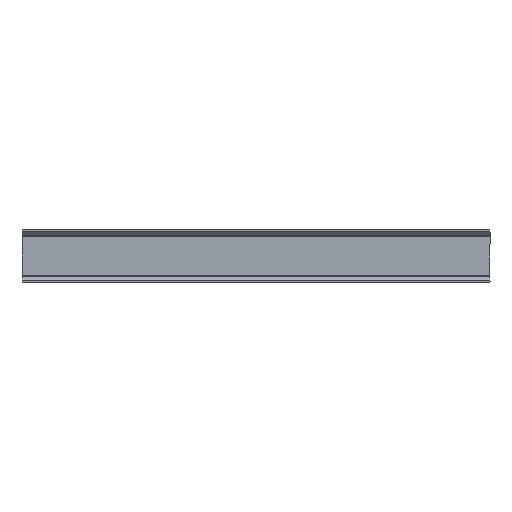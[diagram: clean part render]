
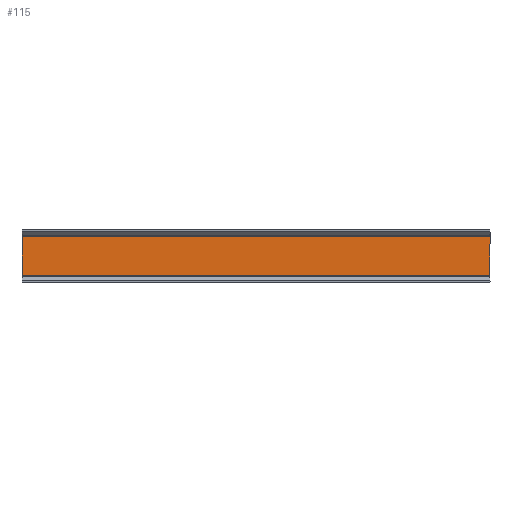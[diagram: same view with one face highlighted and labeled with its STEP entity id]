
A CAD part, front view. The second image highlights one B-rep face of the part: STEP entity #115.
In plain terms, the highlighted planar face has unit normal (0, -1, 0).
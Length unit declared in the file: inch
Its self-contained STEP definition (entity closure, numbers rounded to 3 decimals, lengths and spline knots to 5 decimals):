
#115 = ADVANCED_FACE ( 'NONE', ( #728 ), #1585, .T. ) ;
#185 = CARTESIAN_POINT ( 'NONE',  ( 12., -0.036, -1.211 ) ) ;
#198 = CARTESIAN_POINT ( 'NONE',  ( 12., -0.036, 0. ) ) ;
#204 = DIRECTION ( 'NONE',  ( 0., 0., -1. ) ) ;
#212 = DIRECTION ( 'NONE',  ( -1., 0., 0. ) ) ;
#251 = CARTESIAN_POINT ( 'NONE',  ( 0., -0.036, -0.029 ) ) ;
#252 = DIRECTION ( 'NONE',  ( 1., 0., 0. ) ) ;
#652 = EDGE_LOOP ( 'NONE', ( #764, #778, #769, #774 ) ) ;
#653 = VERTEX_POINT ( 'NONE', #1739 ) ;
#668 = VERTEX_POINT ( 'NONE', #1779 ) ;
#680 = VERTEX_POINT ( 'NONE', #1746 ) ;
#683 = VERTEX_POINT ( 'NONE', #1785 ) ;
#728 = FACE_OUTER_BOUND ( 'NONE', #652, .T. ) ;
#764 = ORIENTED_EDGE ( 'NONE', *, *, #1554, .F. ) ;
#769 = ORIENTED_EDGE ( 'NONE', *, *, #1507, .F. ) ;
#774 = ORIENTED_EDGE ( 'NONE', *, *, #1519, .F. ) ;
#778 = ORIENTED_EDGE ( 'NONE', *, *, #1513, .F. ) ;
#974 = CARTESIAN_POINT ( 'NONE',  ( 0., -0.036, 0. ) ) ;
#988 = DIRECTION ( 'NONE',  ( 0., 0., 1. ) ) ;
#1059 = LINE ( 'NONE', #198, #1096 ) ;
#1065 = VECTOR ( 'NONE', #212, 39.37008 ) ;
#1074 = LINE ( 'NONE', #185, #1065 ) ;
#1078 = LINE ( 'NONE', #251, #1081 ) ;
#1081 = VECTOR ( 'NONE', #252, 39.37008 ) ;
#1096 = VECTOR ( 'NONE', #204, 39.37008 ) ;
#1126 = LINE ( 'NONE', #974, #1200 ) ;
#1200 = VECTOR ( 'NONE', #988, 39.37008 ) ;
#1419 = AXIS2_PLACEMENT_3D ( 'NONE', #1587, #1588, #1561 ) ;
#1507 = EDGE_CURVE ( 'NONE', #668, #683, #1059, .T. ) ;
#1513 = EDGE_CURVE ( 'NONE', #683, #680, #1074, .T. ) ;
#1519 = EDGE_CURVE ( 'NONE', #653, #668, #1078, .T. ) ;
#1554 = EDGE_CURVE ( 'NONE', #680, #653, #1126, .T. ) ;
#1561 = DIRECTION ( 'NONE',  ( 0., 0., -1. ) ) ;
#1585 = PLANE ( 'NONE',  #1419 ) ;
#1587 = CARTESIAN_POINT ( 'NONE',  ( 0., -0.036, 0. ) ) ;
#1588 = DIRECTION ( 'NONE',  ( 0., -1., 0. ) ) ;
#1739 = CARTESIAN_POINT ( 'NONE',  ( 0., -0.036, -0.029 ) ) ;
#1746 = CARTESIAN_POINT ( 'NONE',  ( 0., -0.036, -1.211 ) ) ;
#1779 = CARTESIAN_POINT ( 'NONE',  ( 12., -0.036, -0.029 ) ) ;
#1785 = CARTESIAN_POINT ( 'NONE',  ( 12., -0.036, -1.211 ) ) ;
